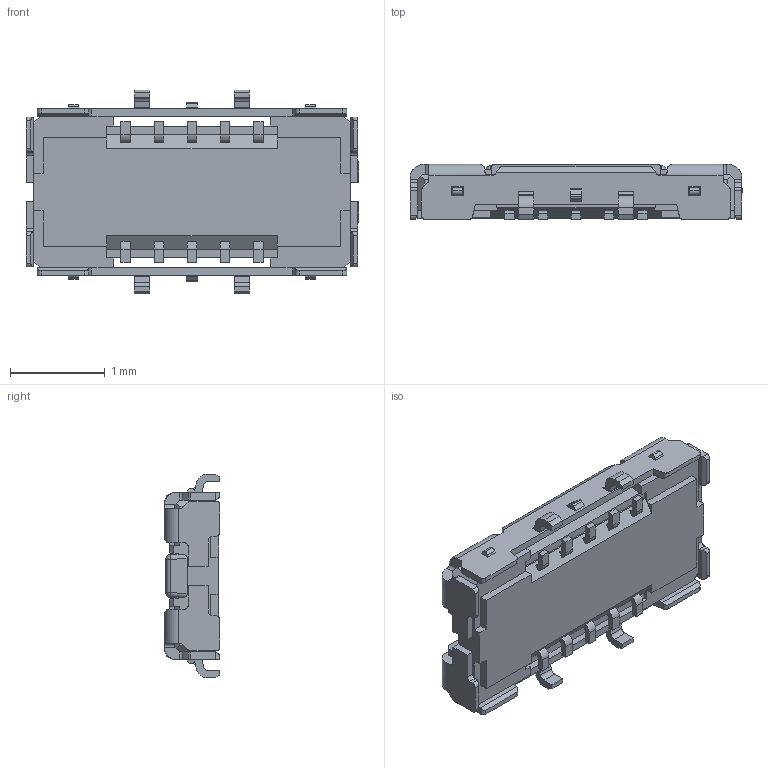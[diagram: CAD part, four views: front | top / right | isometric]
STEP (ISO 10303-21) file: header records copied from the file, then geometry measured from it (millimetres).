
FILE_DESCRIPTION (( 'STEP AP203' ), '1' );
FILE_NAME ('20865-010E-02C RECE ASSY.STEP', '2019-12-17T04:56:40', ( '' ), ( '' ), 'SwSTEP 2.0', 'SolidWorks 2017', '' );
FILE_SCHEMA (( 'CONFIG_CONTROL_DESIGN' ));
Length unit declared in the file: millimetre
Products named in the file (1): 20865-010E-02C RECE ASSY
Bounding box: 3.5 x 0.58 x 2.15 mm (x, y, z)
Volume: 2.1 mm3; surface area: 27.2 mm2
Topology: 1 solids, 1 shells, 683 faces, 1896 edges, 1224 vertices
Faces by surface type: plane 433, cylinder 202, cone 28, bspline 16, sphere 4
Entity records: 22172 total; most frequent: CARTESIAN_POINT 4917, ORIENTED_EDGE 3776, DIRECTION 3372, EDGE_CURVE 1888, LINE 1388, VECTOR 1388, VERTEX_POINT 1224, AXIS2_PLACEMENT_3D 992
